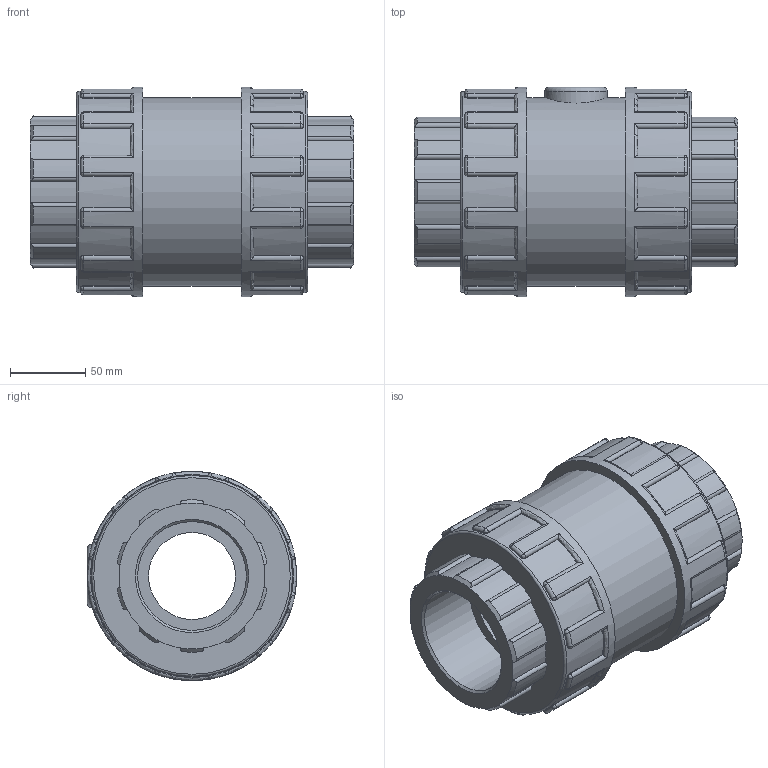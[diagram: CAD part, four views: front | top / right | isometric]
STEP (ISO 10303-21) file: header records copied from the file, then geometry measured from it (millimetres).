
FILE_DESCRIPTION(/* description */ ('PLASSON CHECK VALVE THR 2 1/2" PTFE COATED SPRING + EPDM O-RING'),/* implementation_level */ '2;1');
FILE_NAME(/* name */ 'C:\Dropbox\KIMPROJECTS-Inventor\99-16-3568-Processing\PVC Catalog 2017\110810 - 110610 110910 - 110010\11081025.ipt.stp',/* time_stamp */ '2017-12-07T16:08:16+02:00',/* author */ ('KIM'),/* organization */ (''),/* preprocessor_version */ 'ST-DEVELOPER v15.6',/* originating_system */ 'Autodesk Inventor 2015',/* authorisation */ '');
FILE_SCHEMA (('AUTOMOTIVE_DESIGN { 1 0 10303 214 3 1 1 }'));
Length unit declared in the file: millimetre
Products named in the file (1): 11081025
Bounding box: 215 x 139 x 139 mm (x, y, z)
Volume: 1872112.6 mm3; surface area: 159585.3 mm2
Topology: 1 solids, 1 shells, 411 faces, 1021 edges, 618 vertices
Faces by surface type: cylinder 185, plane 105, torus 51, sphere 48, cone 22
Full cylindrical faces by diameter (mm): 41.7 x1, 57.781 x1, 72.226 x2, 125.1 x1, 133.44 x2, 139 x2
Entity records: 13410 total; most frequent: CARTESIAN_POINT 3631, DIRECTION 2180, ORIENTED_EDGE 1998, EDGE_CURVE 999, AXIS2_PLACEMENT_3D 906, VERTEX_POINT 611, CIRCLE 494, EDGE_LOOP 434
